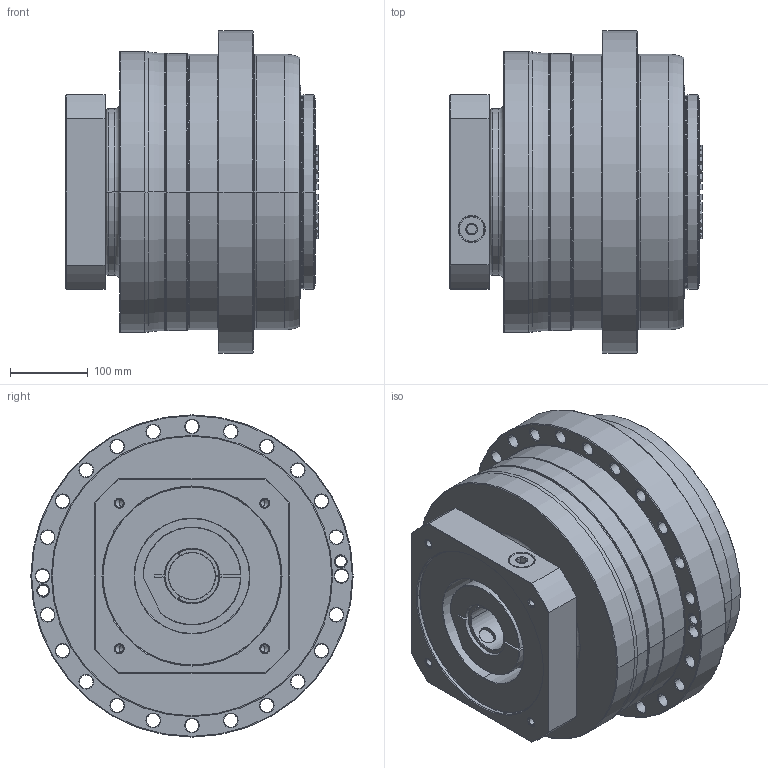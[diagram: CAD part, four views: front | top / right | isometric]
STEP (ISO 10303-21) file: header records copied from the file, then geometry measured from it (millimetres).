
FILE_DESCRIPTION((''),'2;1');
FILE_NAME('APC355_1ST_60-P0409D50101_ASM','2020-12-23T',('d01226'),(''),'PRO/ENGINEER BY PARAMETRIC TECHNOLOGY CORPORATION, 2015240','PRO/ENGINEER BY PARAMETRIC TECHNOLOGY CORPORATION, 2015240','');
FILE_SCHEMA(('CONFIG_CONTROL_DESIGN'));
Length unit declared in the file: millimetre
Products named in the file (9): P0276101003; P03571G0103; P1338110101; P0503D00016; P0942103001; P1222100001; P0409D50101; 21711426021; APC355_1ST_60-P0409D50101_ASM
Assembly tree (8 placements, depth 2):
  APC355_1ST_60-P0409D50101_ASM
    P0276101003
    P03571G0103
    P1338110101
    P0503D00016
    P0942103001
    P1222100001
    P0409D50101
    21711426021
Bounding box: 325.6 x 415 x 415 mm (x, y, z)
Volume: 32519526.3 mm3; surface area: 1355951.5 mm2
Topology: 9 solids, 19 shells, 660 faces, 1627 edges, 1005 vertices
Faces by surface type: cone 228, cylinder 164, plane 132, torus 124, bspline 12
Entity records: 25736 total; most frequent: CARTESIAN_POINT 9753, DIRECTION 3537, ORIENTED_EDGE 3194, EDGE_CURVE 1617, AXIS2_PLACEMENT_3D 1568, VERTEX_POINT 1005, CIRCLE 893, EDGE_LOOP 754
